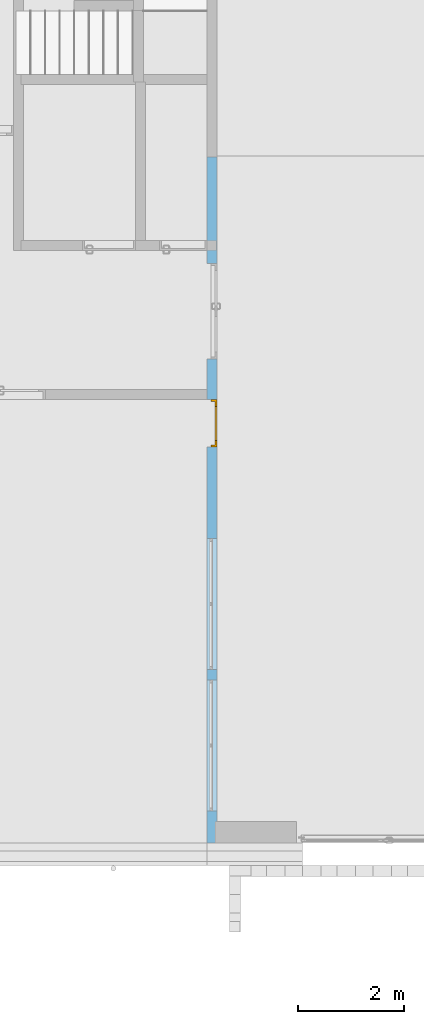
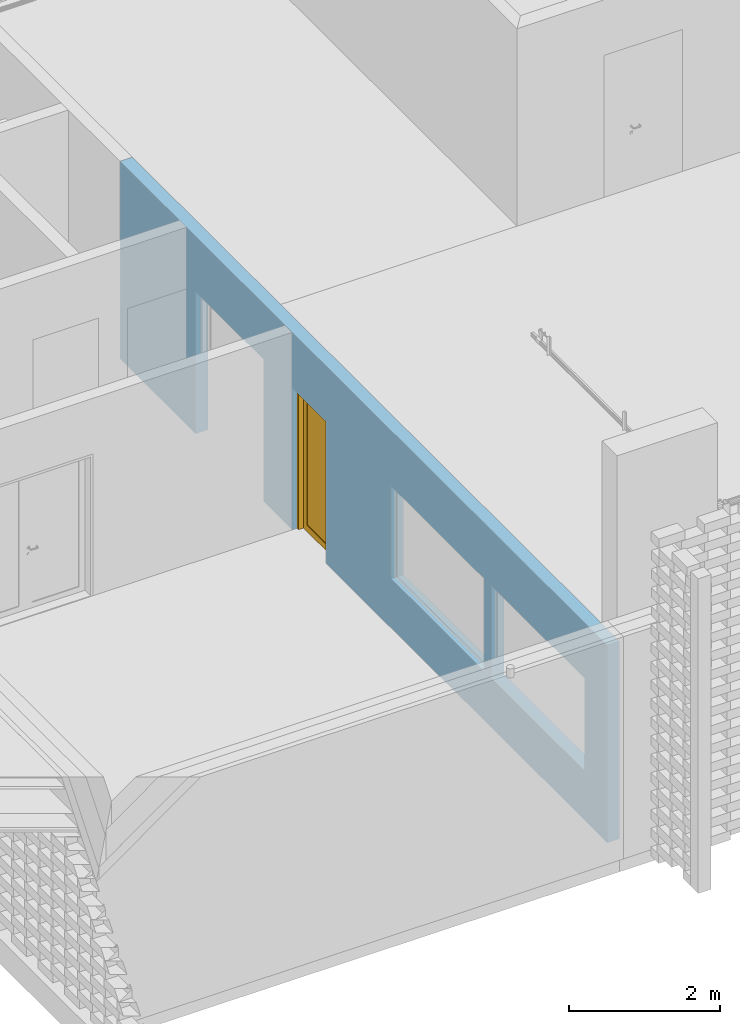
# One storey, part 32 of 62: 1 door, 4 openings, plus 1 element that does not belong to this part.
"""IFC2X3 building model written with IfcOpenShell, lengths in millimetres."""

import ifcopenshell
import ifcopenshell.guid

model = None  # the IFC model being written
_history = None  # IfcOwnerHistory: only IFC2X3 demands one
_inside = {}  # id of a spatial element -> (the spatial element, [elements in it])
_under = {}  # id of a project, library or spatial element -> (it, [spatial elements below it])
_declared = {}  # id of a project -> (the project, [libraries it declares])
_typed = {}  # id of a type object -> (the type object, [elements of that type])
_made_of = {}  # id of a material, layer set ... -> (it, [elements and type objects made of it])


def new_model(schema):
    """Start an empty IFC model of exactly this schema.

    Asked for "IFC4X3", IfcOpenShell would pick the latest addendum, in which some entities
    have other attributes; the version numbers below select the first issue.
    IFC2X3 requires an IfcOwnerHistory on every rooted entity: one is made here for all.
    """
    global model, _history
    if schema == "IFC4X3":
        model = ifcopenshell.file(schema_version=(4, 3, 0, 0))
    else:
        model = ifcopenshell.file(schema=schema)
    _inside.clear()
    _under.clear()
    _declared.clear()
    _typed.clear()
    _made_of.clear()
    _history = None
    if model.schema == "IFC2X3":
        org = make("IfcOrganization", Name="unknown")
        user = make(
            "IfcPersonAndOrganization",
            ThePerson=make("IfcPerson", FamilyName="unknown"),
            TheOrganization=org,
        )
        app = make(
            "IfcApplication",
            ApplicationDeveloper=org,
            Version="unknown",
            ApplicationFullName="unknown",
            ApplicationIdentifier="unknown",
        )
        _history = make(
            "IfcOwnerHistory",
            OwningUser=user,
            OwningApplication=app,
            ChangeAction="ADDED",
            CreationDate=0,
        )
    return model


def make(cls, **values):
    """One entity of the class cls with the attributes given. An attribute that is None is left unset."""
    return model.create_entity(
        cls, **{name: value for name, value in values.items() if value is not None}
    )


def entity(cls, *values):
    """Any entity or typed value of the class cls, its attributes in the order of the schema. None: left unset."""
    e = model.create_entity(cls)
    for i, value in enumerate(values):
        if value is not None:
            e[i] = value
    return e


def rooted(cls, **values):
    """An entity with a GlobalId (a new one), such as an element, a storey or a relation."""
    return make(cls, GlobalId=ifcopenshell.guid.new(), OwnerHistory=_history, **values)


def si_unit(unit_type, name, prefix=None):
    """IfcSIUnit, for example si_unit("LENGTHUNIT", "METRE", prefix="MILLI")."""
    return make("IfcSIUnit", UnitType=unit_type, Prefix=prefix, Name=name)


def converted_unit(unit_type, name, factor, base, dimensions=None, offset=None):
    """IfcConversionBasedUnit, such as the inch: factor (a typed value) times the base unit."""
    return make(
        "IfcConversionBasedUnit"
        if offset is None
        else "IfcConversionBasedUnitWithOffset",
        ConversionOffset=offset,
        Dimensions=None
        if dimensions is None
        else entity("IfcDimensionalExponents", *dimensions),
        UnitType=unit_type,
        Name=name,
        ConversionFactor=make(
            "IfcMeasureWithUnit", ValueComponent=factor, UnitComponent=base
        ),
    )


def derived_unit(unit_type, elements):
    """IfcDerivedUnit: a product of units, each with its exponent."""
    return make(
        "IfcDerivedUnit",
        Elements=[
            make("IfcDerivedUnitElement", Unit=unit, Exponent=power)
            for unit, power in elements
        ],
        UnitType=unit_type,
    )


def money_unit(currency):
    """IfcMonetaryUnit."""
    return make("IfcMonetaryUnit", Currency=currency)


def assignment(units):
    """IfcUnitAssignment: the units of a project."""
    return None if units is None else make("IfcUnitAssignment", Units=units)


def point(xyz):
    """IfcCartesianPoint."""
    return None if xyz is None else make("IfcCartesianPoint", Coordinates=xyz)


def direction(xyz):
    """IfcDirection."""
    return None if xyz is None else make("IfcDirection", DirectionRatios=xyz)


def frame(location, z_axis=None, x_axis=None):
    """IfcAxis2Placement3D, a coordinate frame: its origin and axes. An axis left out is left unset."""
    return make(
        "IfcAxis2Placement3D",
        Location=point(location),
        Axis=direction(z_axis),
        RefDirection=direction(x_axis),
    )


def frame_2d(location, x_axis=None):
    """IfcAxis2Placement2D, a coordinate frame in the plane: its origin and x axis."""
    return make(
        "IfcAxis2Placement2D", Location=point(location), RefDirection=direction(x_axis)
    )


def origin_with_axes():
    """The frame at (0, 0, 0) with the z axis (0, 0, 1) and the x axis (1, 0, 0) written out."""
    return frame((0.0, 0.0, 0.0), z_axis=(0.0, 0.0, 1.0), x_axis=(1.0, 0.0, 0.0))


def origin_2d_with_axis():
    """The frame at (0, 0) in the plane with the x axis (1, 0) written out."""
    return frame_2d((0.0, 0.0), x_axis=(1.0, 0.0))


def place(relative_to, where):
    """IfcLocalPlacement: puts the frame where relative to a parent placement (None: the world)."""
    return make(
        "IfcLocalPlacement", PlacementRelTo=relative_to, RelativePlacement=where
    )


def context(
    kind, dimensions, precision=None, world=None, true_north=None, identifier=None
):
    """IfcGeometricRepresentationContext, for example the 3D "Model" context."""
    return make(
        "IfcGeometricRepresentationContext",
        ContextIdentifier=identifier,
        ContextType=kind,
        CoordinateSpaceDimension=dimensions,
        Precision=precision,
        WorldCoordinateSystem=world,
        TrueNorth=true_north,
    )


def subcontext(parent, identifier, kind, view, scale=None):
    """IfcGeometricRepresentationSubContext, for example "Body" below "Model"."""
    return make(
        "IfcGeometricRepresentationSubContext",
        ContextIdentifier=identifier,
        ContextType=kind,
        ParentContext=parent,
        TargetScale=scale,
        TargetView=view,
    )


def project(units=None, contexts=None):
    """IfcProject with its units and contexts."""
    return rooted(
        "IfcProject",
        Name="project",
        RepresentationContexts=contexts,
        UnitsInContext=assignment(units),
    )


def spatial(cls, under=None, at=None, **own):
    """A site, building, storey or space (cls), placed at a placement, below another one or the project."""
    s = rooted(cls, ObjectPlacement=at, **own)
    if under is not None:
        _under.setdefault(under.id(), (under, []))[1].append(s)
    return s


def polyline(points):
    """IfcPolyline through the points."""
    return make("IfcPolyline", Points=[point(p) for p in points])


def profile(cls, at=None, kind="AREA", **sizes):
    """A parametric profile (cls). Its sizes go by their IFC names, for example OverallWidth=200.0."""
    return make(cls, ProfileType=kind, Position=at, **sizes)


def rectangle(**sizes):
    """IfcRectangleProfileDef."""
    return profile("IfcRectangleProfileDef", **sizes)


def outline(outer, holes=None, kind="AREA"):
    """IfcArbitraryClosedProfileDef: a profile drawn as a closed curve; with holes, ...WithVoids."""
    if holes is None:
        return make("IfcArbitraryClosedProfileDef", ProfileType=kind, OuterCurve=outer)
    return make(
        "IfcArbitraryProfileDefWithVoids",
        ProfileType=kind,
        OuterCurve=outer,
        InnerCurves=holes,
    )


def extrude(swept, where, along, depth):
    """IfcExtrudedAreaSolid: the profile swept, set in the frame where, extruded along a direction by depth."""
    return make(
        "IfcExtrudedAreaSolid",
        SweptArea=swept,
        Position=where,
        ExtrudedDirection=direction(along),
        Depth=depth,
    )


def faces_of(points, faces, orient=None, outer=None):
    """IfcFace entities. A face is a list of loops; a loop is a list of indices into points, from 0.

    orient and outer hold one flag for each loop. By default every Orientation is true, the
    first loop of a face is its IfcFaceOuterBound and the others are IfcFaceBound.
    """
    made = []
    for i, loops in enumerate(faces):
        bounds = []
        for j, loop in enumerate(loops):
            is_outer = j == 0 if outer is None else outer[i][j]
            bounds.append(
                make(
                    "IfcFaceOuterBound" if is_outer else "IfcFaceBound",
                    Bound=make("IfcPolyLoop", Polygon=[points[k] for k in loop]),
                    Orientation=True if orient is None else orient[i][j],
                )
            )
        made.append(make("IfcFace", Bounds=bounds))
    return made


def open_shell(faces, orient=None, outer=None):
    """The faces of one IfcOpenShell. surface_model builds it on its shared points."""
    return ("IfcOpenShell", faces, orient, outer)


def faceted_brep(points, faces, orient=None, outer=None, voids=None):
    """IfcFacetedBrep: a solid bounded by flat faces; with voids (closed shells), ...WithVoids."""
    shared = [point(p) for p in points]
    hull = make("IfcClosedShell", CfsFaces=faces_of(shared, faces, orient, outer))
    if voids is None:
        return make("IfcFacetedBrep", Outer=hull)
    return make(
        "IfcFacetedBrepWithVoids",
        Outer=hull,
        Voids=[
            make(cls, CfsFaces=faces_of(shared, fs, o, b)) for cls, fs, o, b in voids
        ],
    )


def surface_model(cls, points, shells):
    """IfcFaceBasedSurfaceModel or IfcShellBasedSurfaceModel (cls): surfaces that need not close."""
    shared = [point(p) for p in points]
    made = [make(c, CfsFaces=faces_of(shared, fs, o, b)) for c, fs, o, b in shells]
    if cls == "IfcFaceBasedSurfaceModel":
        return make(cls, FbsmFaces=made)
    return make(cls, SbsmBoundary=made)


def shape(context_of_items, identifier, shape_type, items):
    """IfcShapeRepresentation: the items that make up one representation, for example the "Body"."""
    return make(
        "IfcShapeRepresentation",
        ContextOfItems=context_of_items,
        RepresentationIdentifier=identifier,
        RepresentationType=shape_type,
        Items=items,
    )


def material(Name=None, Category=None):
    """IfcMaterial."""
    return make("IfcMaterial", Name=Name, Category=Category)


def layer(
    of_material, thickness, ventilated=None, Name=None, Category=None, Priority=None
):
    """IfcMaterialLayer: one layer of a wall or slab, of a material (None: an air gap)."""
    return make(
        "IfcMaterialLayer",
        Material=of_material,
        LayerThickness=thickness,
        IsVentilated=ventilated,
        Name=Name,
        Category=Category,
        Priority=Priority,
    )


def layer_set(layers, Name=None):
    """IfcMaterialLayerSet."""
    return make("IfcMaterialLayerSet", MaterialLayers=layers, LayerSetName=Name)


def layer_usage(for_layer_set, set_direction, sense, offset, extent=None):
    """IfcMaterialLayerSetUsage: how a layer set lies in its element."""
    return make(
        "IfcMaterialLayerSetUsage",
        ForLayerSet=for_layer_set,
        LayerSetDirection=set_direction,
        DirectionSense=sense,
        OffsetFromReferenceLine=offset,
        ReferenceExtent=extent,
    )


def made_of(thing, what):
    """Note that an element or type object is made of a material, layer set ...; save() writes the relation."""
    if what is not None:
        _made_of.setdefault(what.id(), (what, []))[1].append(thing)
    return thing


def type_object(cls, material=None, **own):
    """A type object (cls), such as IfcWallType, which elements share."""
    return made_of(rooted(cls, **own), material)


def element(
    cls,
    number,
    at=None,
    inside=None,
    cuts=None,
    type_object=None,
    material=None,
    context=None,
    identifier="Body",
    shape_type=None,
    held_by="IfcProductDefinitionShape",
    body=None,
    shapes=None,
    **own,
):
    """One element of the class cls, such as IfcWall. Its Tag is "e" and its number.

    at: its placement. inside: the storey or other place that contains it. cuts: it is an
    opening in that element (IfcRelVoidsElement). A single representation is given by context,
    identifier, shape_type and body (its items); several are given by shapes. held_by: the class
    of the entity that holds the representations. save() writes the other relations.
    """
    e = rooted(cls, Tag="e%d" % number, ObjectPlacement=at, **own)
    if body is not None:
        shapes = [shape(context, identifier, shape_type, body)]
    if shapes is not None:
        e.Representation = make(held_by, Representations=shapes)
    if inside is not None:
        _inside.setdefault(inside.id(), (inside, []))[1].append(e)
    if cuts is not None:
        rooted(
            "IfcRelVoidsElement", RelatingBuildingElement=cuts, RelatedOpeningElement=e
        )
    if type_object is not None:
        _typed.setdefault(type_object.id(), (type_object, []))[1].append(e)
    return made_of(e, material)


def fill(opening, filler):
    """IfcRelFillsElement: the door or window that sits in an opening."""
    return rooted(
        "IfcRelFillsElement",
        RelatingOpeningElement=opening,
        RelatedBuildingElement=filler,
    )


def aggregate(whole, parts):
    """IfcRelAggregates: a whole, such as a stair, and the parts it consists of."""
    return rooted("IfcRelAggregates", RelatingObject=whole, RelatedObjects=parts)


def save(model, path):
    """Write the relations noted so far, then the file.

    IfcRelAggregates (storeys below a building ...), IfcRelContainedInSpatialStructure (elements
    in a storey), IfcRelDefinesByType, IfcRelAssociatesMaterial and IfcRelDeclares: one each for
    every whole, place, type object, material and project.
    """
    for whole, parts in _under.values():
        aggregate(whole, parts)
    for where, things in _inside.values():
        rooted(
            "IfcRelContainedInSpatialStructure",
            RelatedElements=things,
            RelatingStructure=where,
        )
    for kind, things in _typed.values():
        rooted("IfcRelDefinesByType", RelatedObjects=things, RelatingType=kind)
    for what, things in _made_of.values():
        rooted("IfcRelAssociatesMaterial", RelatedObjects=things, RelatingMaterial=what)
    for by, libraries in _declared.values():
        rooted("IfcRelDeclares", RelatingContext=by, RelatedDefinitions=libraries)
    model.write(path)


model = new_model("IFC2X3")

# Units and contexts
model_context = context("Model", 3, precision=0.01, world=origin_with_axes(), true_north=direction((0.0, 1.0)))
body_context = subcontext(model_context, "Body", "Model", "MODEL_VIEW")
ifc_project = project(units=[si_unit("LENGTHUNIT", "METRE", prefix="MILLI"), si_unit("AREAUNIT", "SQUARE_METRE"), si_unit("VOLUMEUNIT", "CUBIC_METRE"), converted_unit("PLANEANGLEUNIT", "DEGREE", entity("IfcPlaneAngleMeasure", 0.0174532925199), si_unit("PLANEANGLEUNIT", "RADIAN"), dimensions=[0, 0, 0, 0, 0, 0, 0]), si_unit("SOLIDANGLEUNIT", "STERADIAN"), money_unit("EUR"), converted_unit("TIMEUNIT", "Year", entity("IfcTimeMeasure", 31556926.0), si_unit("TIMEUNIT", "SECOND"), dimensions=[0, 0, 1, 0, 0, 0, 0]), si_unit("MASSUNIT", "GRAM", prefix="KILO"), si_unit("THERMODYNAMICTEMPERATUREUNIT", "DEGREE_CELSIUS"), si_unit("LUMINOUSINTENSITYUNIT", "LUMEN"), si_unit("ENERGYUNIT", "JOULE", prefix="MEGA"), derived_unit("THERMALCONDUCTANCEUNIT", [(si_unit("POWERUNIT", "WATT"), 1), (si_unit("LENGTHUNIT", "METRE"), -1), (si_unit("THERMODYNAMICTEMPERATUREUNIT", "KELVIN"), -1)]), derived_unit("SPECIFICHEATCAPACITYUNIT", [(si_unit("ENERGYUNIT", "JOULE"), 1), (si_unit("MASSUNIT", "GRAM", prefix="KILO"), -1), (si_unit("THERMODYNAMICTEMPERATUREUNIT", "KELVIN"), -1)]), derived_unit("MASSDENSITYUNIT", [(si_unit("MASSUNIT", "GRAM", prefix="KILO"), 1), (si_unit("VOLUMEUNIT", "CUBIC_METRE"), -1)])], contexts=[model_context])

# Site, building, storey
site_placement = place(None, origin_with_axes())
site = spatial("IfcSite", under=ifc_project, at=site_placement, Name="KIRDE 14, ELVA", CompositionType="ELEMENT")
building_placement = place(site_placement, origin_with_axes())
building = spatial("IfcBuilding", under=site, at=building_placement, Name="PPA ja Päästeameti ühishoone", CompositionType="ELEMENT")
storey_placement = place(building_placement, origin_with_axes())
storey = spatial("IfcBuildingStorey", under=building, at=storey_placement, Name="Esimene korrus", CompositionType="ELEMENT", Elevation=0.0)

# Wall, openings, door
ifc_material = material(Name="COLUMBIA KIVI (BETONEERITUD)")
ifc_layer = layer(ifc_material, 190.0, ventilated="UNKNOWN")
ifc_layer_set = layer_set([ifc_layer], Name="SS-02")
ifc_layer_usage = layer_usage(ifc_layer_set, "AXIS2", "NEGATIVE", 190.0)
wall_type = type_object("IfcWallType", Name="SS-02 190", PredefinedType="USERDEFINED")
wall_placement = place(storey_placement, frame((9090.00014048, -0.000107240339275, 0.0), z_axis=(0.0, 0.0, 1.0), x_axis=(0.0, 1.0, 0.0)))
wall = element("IfcWallStandardCase", 1, at=wall_placement, inside=storey, type_object=wall_type, material=ifc_layer_usage, Name="SS-02", ObjectType="PARTITIONING", context=body_context, shape_type="SweptSolid", body=[
    extrude(outline(polyline([(2.69473332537e-09, 0.0), (12939.0001896, 0.0), (12939.0001896, 190.0), (-6.54818421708e-08, 190.0), (2.69473332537e-09, 0.0)])), origin_with_axes(), (0.0, 0.0, 1.0), 3200.0),
])
opening_1_placement = place(wall_placement, frame((4507.74993761, 0.0, 800.0), z_axis=(0.0, 0.0, 1.0), x_axis=(1.0, 0.0, 0.0)))
element("IfcOpeningElement", 2, at=opening_1_placement, cuts=wall, Name="SA-04", context=body_context, shape_type="SweptSolid", body=[
    extrude(rectangle(XDim=2471.5, YDim=1500.0, at=origin_2d_with_axis()), frame((0.0, 80.0, 750.0), z_axis=(0.0, 1.0, 0.0), x_axis=(-1.0, 0.0, 0.0)), (0.0, 0.0, 1.0), 300.0),
    extrude(rectangle(XDim=2471.5, YDim=1500.0, at=origin_2d_with_axis()), frame((0.0, 80.0, 750.0), z_axis=(0.0, -1.0, 0.0), x_axis=(-1.0, 0.0, 0.0)), (0.0, 0.0, 1.0), 270.0),
])
opening_2_placement = place(wall_placement, frame((1836.24993761, 0.0, 800.0), z_axis=(0.0, 0.0, 1.0), x_axis=(1.0, 0.0, 0.0)))
element("IfcOpeningElement", 3, at=opening_2_placement, cuts=wall, Name="SA-04", context=body_context, shape_type="SweptSolid", body=[
    extrude(rectangle(XDim=2471.5, YDim=1500.0, at=origin_2d_with_axis()), frame((0.0, 80.0, 750.0), z_axis=(0.0, 1.0, 0.0), x_axis=(-1.0, 0.0, 0.0)), (0.0, 0.0, 1.0), 300.0),
    extrude(rectangle(XDim=2471.5, YDim=1500.0, at=origin_2d_with_axis()), frame((0.0, 80.0, 750.0), z_axis=(0.0, -1.0, 0.0), x_axis=(-1.0, 0.0, 0.0)), (0.0, 0.0, 1.0), 270.0),
])
opening_3_placement = place(wall_placement, frame((10030.3802884, 0.0, 0.0), z_axis=(0.0, 0.0, 1.0), x_axis=(1.0, 0.0, 0.0)))
element("IfcOpeningElement", 4, at=opening_3_placement, cuts=wall, Name="SU-02*", context=body_context, shape_type="SweptSolid", body=[
    extrude(rectangle(XDim=1800.0, YDim=2300.0, at=origin_2d_with_axis()), frame((0.0, 190.0, 1150.0), z_axis=(0.0, 1.0, 0.0), x_axis=(1.0, 0.0, 0.0)), (0.0, 0.0, -1.0), 570.0),
])
opening_4_placement = place(wall_placement, frame((7915.93251273, 0.0, 0.0), z_axis=(0.0, 0.0, 1.0), x_axis=(1.0, 0.0, 0.0)))
opening_4 = element("IfcOpeningElement", 5, at=opening_4_placement, cuts=wall, Name="SU-06", context=body_context, shape_type="SweptSolid", body=[
    extrude(rectangle(XDim=900.0, YDim=2300.0, at=origin_2d_with_axis()), frame((0.0, 190.0, 1150.0), z_axis=(0.0, 1.0, 0.0), x_axis=(1.0, 0.0, 0.0)), (0.0, 0.0, -1.0), 570.0),
])
door_style = type_object("IfcDoorStyle", Name="Door 24", ConstructionType="NOTDEFINED", OperationType="SINGLE_SWING_LEFT", ParameterTakesPrecedence=False, Sizeable=False)
door_placement = place(opening_4_placement, frame((450.0, 0.0, 0.0), z_axis=(0.0, 0.0, 1.0), x_axis=(-1.0, 0.0, 0.0)))
door = element("IfcDoor", 6, at=door_placement, inside=storey, type_object=door_style, Name="SU-06", ObjectType="DOOR", OverallHeight=2300.0, OverallWidth=900.0, context=body_context, shape_type="SurfaceModel", body=[
    faceted_brep([(860.0, -40.0, 0.0), (860.0, -115.0, 0.0), (860.0, -115.0, 2260.0), (860.0, -40.0, 2260.0), (872.0, -40.0, 0.0), (872.0, 0.0, 0.0), (900.0, 0.0, 0.0), (900.0, -115.0, 0.0), (900.0, -115.0, 2260.0), (872.0, -40.0, 2260.0), (900.0, 0.0, 2260.0), (872.0, 0.0, 2260.0)], [[[0, 1, 2, 3]], [[4, 5, 6, 7, 1, 0]], [[1, 7, 8, 2]], [[9, 3, 2, 8, 10, 11]], [[9, 4, 0, 3]], [[11, 5, 4, 9]], [[11, 10, 6, 5]], [[6, 10, 8, 7]]]),
    faceted_brep([(28.0, -40.0, 2260.0), (28.0, 0.0, 2260.0), (0.0, 0.0, 2260.0), (0.0, -115.0, 2260.0), (40.0, -115.0, 2260.0), (40.0, -40.0, 2260.0), (28.0, -40.0, 0.0), (28.0, 0.0, 0.0), (0.0, 0.0, 0.0), (0.0, -115.0, 0.0), (40.0, -115.0, 0.0), (40.0, -40.0, 0.0)], [[[0, 1, 2, 3, 4, 5]], [[0, 6, 7, 1]], [[7, 8, 2, 1]], [[2, 8, 9, 3]], [[3, 9, 10, 4]], [[5, 4, 10, 11]], [[5, 11, 6, 0]], [[6, 11, 10, 9, 8, 7]]]),
    faceted_brep([(872.0, 0.0, 2272.0), (28.0, 0.0, 2272.0), (28.0, 0.0, 2260.0), (0.0, 0.0, 2260.0), (0.0, 0.0, 2300.0), (900.0, 0.0, 2300.0), (900.0, 0.0, 2260.0), (872.0, 0.0, 2260.0), (872.0, -40.0, 2272.0), (28.0, -40.0, 2272.0), (28.0, -40.0, 2260.0), (40.0, -40.0, 2260.0), (40.0, -115.0, 2260.0), (0.0, -115.0, 2260.0), (0.0, -115.0, 2300.0), (900.0, -115.0, 2300.0), (900.0, -115.0, 2260.0), (872.0, -40.0, 2260.0), (860.0, -115.0, 2260.0), (860.0, -40.0, 2260.0)], [[[0, 1, 2, 3, 4, 5, 6, 7]], [[0, 8, 9, 1]], [[1, 9, 10, 2]], [[10, 11, 12, 13, 3, 2]], [[4, 3, 13, 14]], [[5, 4, 14, 15]], [[6, 5, 15, 16]], [[17, 7, 6, 16, 18, 19]], [[7, 17, 8, 0]], [[10, 9, 8, 17, 19, 11]], [[19, 18, 12, 11]], [[12, 18, 16, 15, 14, 13]]]),
    faceted_brep([(28.0, 0.0, 100.0), (128.0, 0.0, 100.0), (128.0, -40.0, 100.0), (28.0, -40.0, 100.0), (28.0, 0.0, 2172.0), (128.0, 0.0, 2172.0), (128.0, -40.0, 2172.0), (28.0, -40.0, 2172.0)], [[[0, 1, 2, 3]], [[0, 4, 5, 1]], [[1, 5, 6, 2]], [[3, 2, 6, 7]], [[4, 0, 3, 7]], [[5, 4, 7, 6]]]),
    faceted_brep([(872.0, 0.0, 100.0), (872.0, 0.0, 2172.0), (872.0, -40.0, 2172.0), (872.0, -40.0, 100.0), (772.0, 0.0, 100.0), (772.0, 0.0, 2172.0), (772.0, -40.0, 2172.0), (772.0, -40.0, 100.0)], [[[0, 1, 2, 3]], [[0, 4, 5, 1]], [[1, 5, 6, 2]], [[3, 2, 6, 7]], [[4, 0, 3, 7]], [[5, 4, 7, 6]]]),
    faceted_brep([(28.0, 0.0, 0.0), (872.0, 0.0, 0.0), (872.0, -40.0, 0.0), (28.0, -40.0, 0.0), (28.0, 0.0, 100.0), (128.0, 0.0, 100.0), (772.0, 0.0, 100.0), (872.0, 0.0, 100.0), (872.0, -40.0, 100.0), (772.0, -40.0, 100.0), (128.0, -40.0, 100.0), (28.0, -40.0, 100.0)], [[[0, 1, 2, 3]], [[0, 4, 5, 6, 7, 1]], [[1, 7, 8, 2]], [[3, 2, 8, 9, 10, 11]], [[4, 0, 3, 11]], [[5, 4, 11, 10]], [[6, 5, 10, 9]], [[7, 6, 9, 8]]]),
    faceted_brep([(28.0, 0.0, 2272.0), (28.0, 0.0, 2172.0), (28.0, -40.0, 2172.0), (28.0, -40.0, 2272.0), (872.0, 0.0, 2272.0), (872.0, 0.0, 2172.0), (772.0, 0.0, 2172.0), (128.0, 0.0, 2172.0), (128.0, -40.0, 2172.0), (772.0, -40.0, 2172.0), (872.0, -40.0, 2172.0), (872.0, -40.0, 2272.0)], [[[0, 1, 2, 3]], [[0, 4, 5, 6, 7, 1]], [[1, 7, 8, 2]], [[3, 2, 8, 9, 10, 11]], [[4, 0, 3, 11]], [[5, 4, 11, 10]], [[6, 5, 10, 9]], [[7, 6, 9, 8]]]),
    surface_model("IfcShellBasedSurfaceModel", [(128.0, -14.0, 100.0), (128.0, -14.0, 2172.0), (772.0, -14.0, 2172.0), (772.0, -14.0, 100.0)], [open_shell([[[0, 1, 2, 3]]])]),
    surface_model("IfcShellBasedSurfaceModel", [(128.0, -26.0, 100.0), (772.0, -26.0, 100.0), (772.0, -26.0, 2172.0), (128.0, -26.0, 2172.0)], [open_shell([[[0, 1, 2, 3]]])]),
])
fill(opening_4, door)

save(model, "model.ifc")
